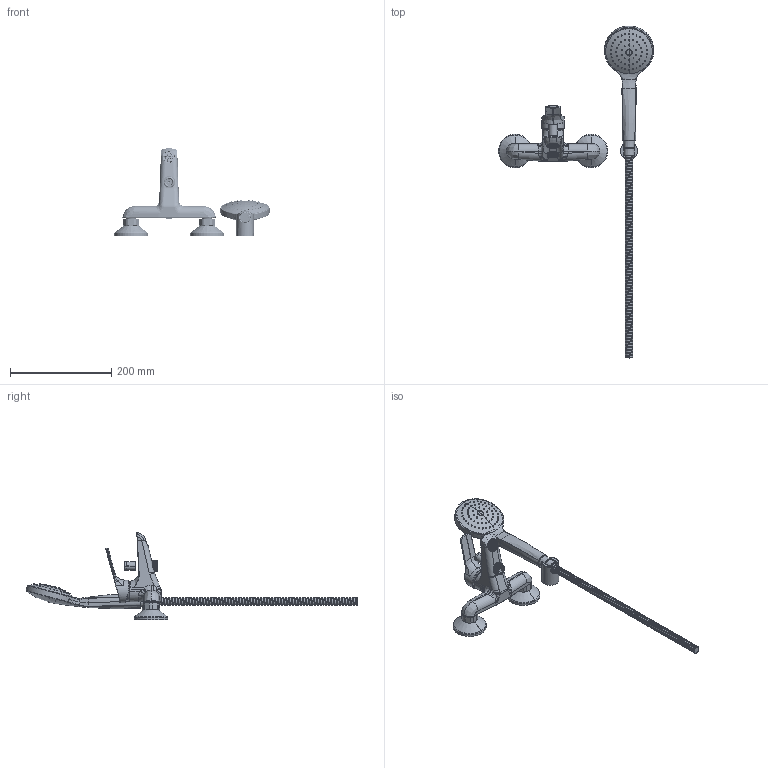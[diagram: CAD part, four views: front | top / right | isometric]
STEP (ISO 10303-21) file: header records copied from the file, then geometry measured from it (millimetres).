
FILE_DESCRIPTION((''),'2;1');
FILE_NAME('3D_SW0001','2019-06-12T',('ivanv'),(''),'CREO PARAMETRIC BY PTC INC, 2016260','CREO PARAMETRIC BY PTC INC, 2016260','');
FILE_SCHEMA(('CONFIG_CONTROL_DESIGN'));
Products named in the file (1): 3D_SW0001
Bounding box: 306.5 x 655.86 x 172.98 mm (x, y, z)
Volume: 489827 mm3; surface area: 187045.2 mm2
Topology: 4 solids, 4 shells, 6806 faces, 18899 edges, 12202 vertices
Faces by surface type: plane 5034, cylinder 959, bspline 326, cone 261, sphere 101, torus 95, extrusion 30
Entity records: 318594 total; most frequent: CARTESIAN_POINT 160460, ORIENTED_EDGE 37752, DIRECTION 24373, EDGE_CURVE 18876, VERTEX_POINT 12202, B_SPLINE_CURVE_WITH_KNOTS 8992, VECTOR 8415, LINE 8385
